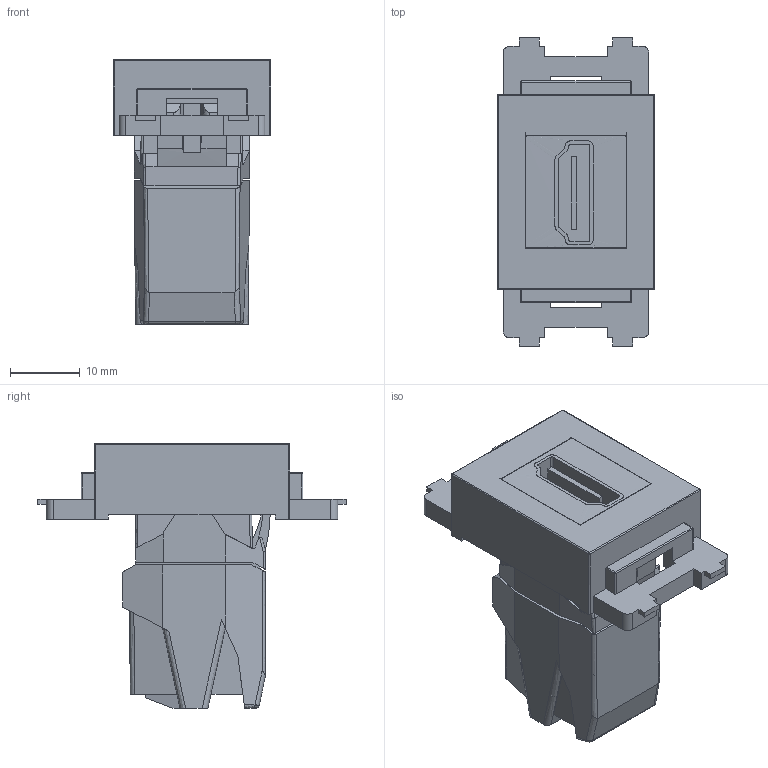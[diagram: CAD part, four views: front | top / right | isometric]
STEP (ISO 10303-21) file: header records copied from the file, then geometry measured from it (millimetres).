
FILE_DESCRIPTION(('FreeCAD Model'),'2;1');
FILE_NAME('Open CASCADE Shape Model','2026-05-12T09:50:39',(''),(''), 'Open CASCADE STEP processor 7.8','FreeCAD','Unknown');
FILE_SCHEMA(('AUTOMOTIVE_DESIGN { 1 0 10303 214 1 1 1 1 }'));
Length unit declared in the file: millimetre
Products named in the file (3): CC_LHDMI_XX_KV; SY-NWT-KV-xx; 210HD05G2xx
Assembly tree (2 placements, depth 2):
  CC_LHDMI_XX_KV
    SY-NWT-KV-xx
    210HD05G2xx
Bounding box: 22.65 x 44.3 x 38 mm (x, y, z)
Volume: 13187.8 mm3; surface area: 8680.5 mm2
Topology: 2 solids, 2 shells, 354 faces, 977 edges, 630 vertices
Faces by surface type: bspline 354
Entity records: 15841 total; most frequent: CARTESIAN_POINT 9893, ORIENTED_EDGE 1954, EDGE_CURVE 977, B_SPLINE_CURVE_WITH_KNOTS 977, VERTEX_POINT 630, FACE_BOUND 363, EDGE_LOOP 363, ADVANCED_FACE 354
